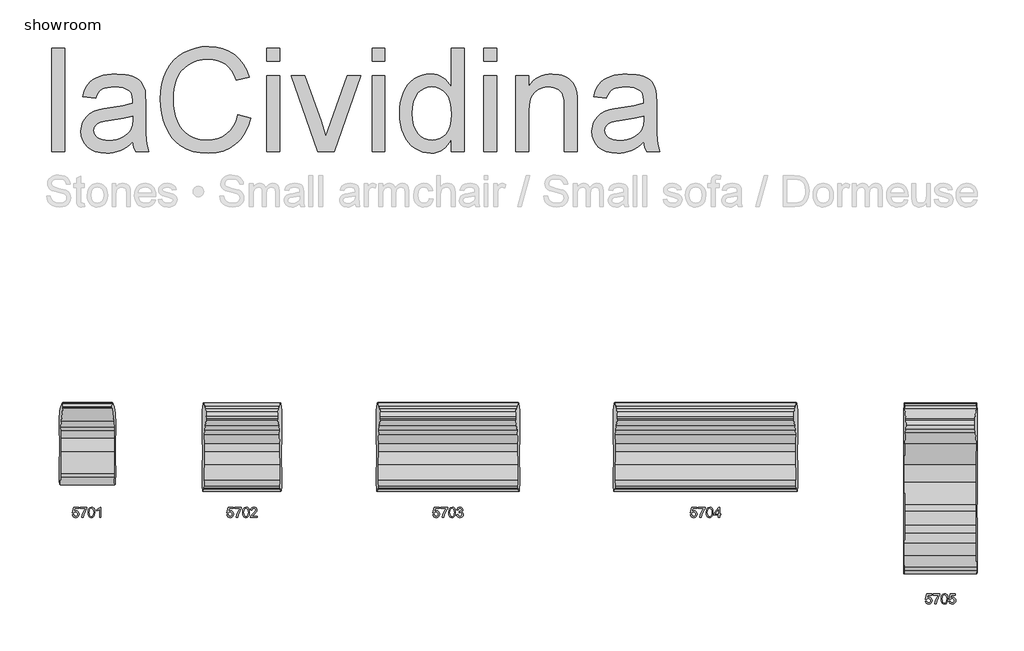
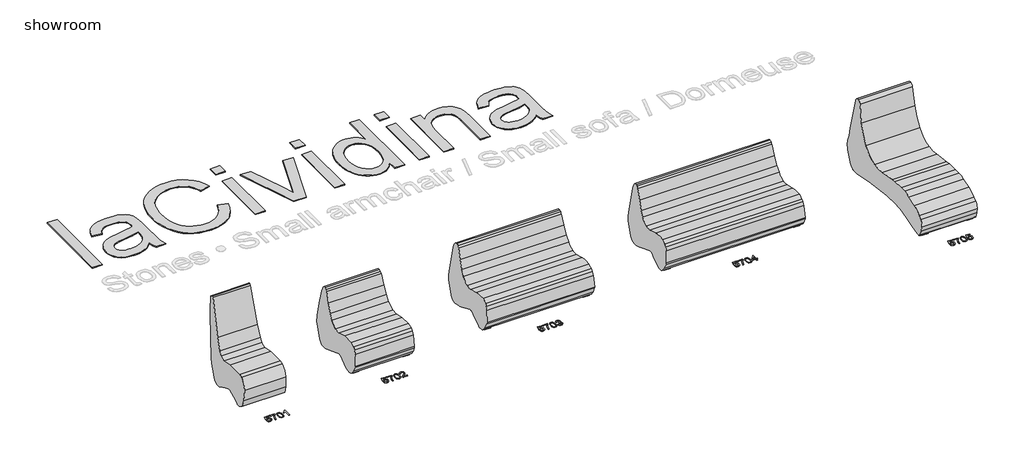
# One storey, part 1 of 2: 6 proxies, 5 furniture elements.
"""IFC4 building model written with IfcOpenShell, lengths in millimetres."""

from ifc_helpers import new_model, si_unit, origin, origin_with_axes, place, context, project, spatial, polyline, outline, extrude, transform, mapped, element, save
from components import stones_5701_stones_5701_19645829, stones_5702_stones_5702_3250bf2c, stones_5703_stones_5703_758f9897, stones_5704_stones_5704_b2d92260, stones_5705_stones_5705_17339cd3

model = new_model("IFC4")

# Units and contexts
model_context = context("Model", 3, world=origin())
ifc_project = project(units=[si_unit("LENGTHUNIT", "METRE", prefix="MILLI")], contexts=[model_context])

# Site, building, storey
site = spatial("IfcSite", under=ifc_project)
building = spatial("IfcBuilding", under=site)
storey = spatial("IfcBuildingStorey", under=building, Name="showroom", Elevation=0.0)

# Proxies
placement = place(None, origin())
element("IfcBuildingElementProxy", 1, Name="1000mm Arial", ObjectType="1000mm Arial", at=placement, inside=storey, context=model_context, shape_type="SweptSolid", body=[
    extrude(outline(polyline([(-1952.8965336, 4695.1020807), (-1952.8965336, 5699.6651822), (-1827.326146, 5699.6651822), (-1827.326146, 4695.1020807), (-1952.8965336, 4695.1020807)])), origin_with_axes(), (0.0, 0.0, 1.0), 10.0),
    extrude(outline(polyline([(-1168.0816106, 4789.2798714), (-1197.8570596, 4761.3361682), (-1228.0770326, 4737.8377058), (-1258.7415298, 4718.7844841), (-1289.850551, 4704.1765032), (-1321.7566499, 4693.3393128), (-1354.81238, 4685.5984625), (-1389.0177413, 4680.9539523), (-1424.3727339, 4679.4057822), (-1480.283133, 4683.1305874), (-1529.311073, 4694.305003), (-1571.4565541, 4712.929029), (-1606.7195762, 4739.0026654), (-1634.5636447, 4770.8704433), (-1654.4522651, 4806.8768935), (-1666.3854373, 4847.0220163), (-1670.3631613, 4891.3058114), (-1664.3544221, 4943.3611138), (-1656.843498, 4967.5953402), (-1646.3282043, 4990.6339501), (-1618.5224569, 5031.1009696), (-1583.1751285, 5062.7388212), (-1541.6351199, 5086.6511509), (-1495.2513316, 5103.9416046), (-1450.0631599, 5113.5678502), (-1386.6035157, 5122.8262137), (-1258.2126994, 5142.6918415), (-1208.6406006, 5153.9122423), (-1168.8173746, 5165.9910345), (-1168.0816106, 5193.9500661), (-1170.2429173, 5224.3923012), (-1176.7268375, 5249.9907567), (-1187.5333711, 5270.7454326), (-1202.6625181, 5286.6563289), (-1228.8127966, 5302.5365684), (-1260.665246, 5313.8795966), (-1298.2198664, 5320.6854135), (-1341.4766577, 5322.9540191), (-1381.6984225, 5321.4441701), (-1416.27933, 5316.914623), (-1445.2193803, 5309.3653779), (-1468.5185733, 5298.7964348), (-1487.6637655, 5284.3800591), (-1504.1418132, 5265.2885164), (-1517.9527164, 5241.5218066), (-1529.0964752, 5213.0799299), (-1654.6668629, 5228.7762283), (-1645.1095952, 5264.9512912), (-1632.8698547, 5297.4475341), (-1617.9476412, 5326.2649571), (-1600.3429549, 5351.4035601), (-1579.2970391, 5373.3691809), (-1554.0511372, 5392.6676572), (-1524.6052492, 5409.2989891), (-1490.959375, 5423.2631765), (-1453.7956293, 5434.3149647), (-1413.7961265, 5442.2090992), (-1370.9608667, 5446.9455799), (-1325.2898499, 5448.5244068), (-1240.4010795, 5442.9448632), (-1204.5555776, 5435.9704337), (-1173.1093312, 5426.2062324), (-1122.3722727, 5401.0369726), (-1102.8208775, 5386.3140286), (-1087.1475717, 5370.1655418), (-1063.787065, 5331.9977848), (-1048.6425895, 5284.9395463), (-1044.0440646, 5241.5294708), (-1042.5112229, 5175.065457), (-1042.5112229, 5018.8382364), (-1040.9170676, 4882.752555), (-1036.1346017, 4800.6842133), (-1026.6922971, 4746.7588442), (-1011.118626, 4695.1020807), (-1136.6890137, 4695.1020807), (-1156.7998961, 4738.7574108), (-1168.0816106, 4789.2798714)]), holes=[polyline([(-1168.0816106, 5040.4206468), (-1252.4492148, 5019.5126868), (-1370.6619626, 5001.9156646), (-1435.8077326, 4992.2894191), (-1478.6966419, 4981.5595276), (-1506.8089577, 4967.6413254), (-1527.6249472, 4948.450148), (-1540.500817, 4925.4575233), (-1544.7927737, 4900.1349793), (-1542.4551901, 4880.6219052), (-1535.4424396, 4862.7949568), (-1523.7545221, 4846.6541343), (-1507.3914375, 4832.1994375), (-1486.50647, 4820.2892579), (-1461.2529039, 4811.7819868), (-1431.6307391, 4806.6776241), (-1397.6399756, 4804.9761699), (-1362.9364407, 4806.8539009), (-1330.1949431, 4812.487094), (-1299.4154829, 4821.8757491), (-1270.5980599, 4835.0198662), (-1244.6010656, 4850.8311278), (-1222.2828912, 4868.2212162), (-1203.6435368, 4887.1901316), (-1188.6830023, 4907.7378739), (-1179.9917902, 4926.1319736), (-1173.7837815, 4948.450148), (-1168.8173746, 5004.8587206), (-1168.0816106, 5040.4206468)])]), origin_with_axes(), (0.0, 0.0, 1.0), 10.0),
    extrude(outline(polyline([(-147.8222106, 5052.1928707), (-22.2518229, 5019.8192551), (-47.099186, 4941.7286374), (-80.1932372, 4873.4941915), (-121.5339764, 4815.1159174), (-145.296854, 4789.6228448), (-171.1214037, 4766.5938151), (-227.8365446, 4728.4490507), (-290.5604248, 4701.2027904), (-359.2930442, 4684.8550343), (-434.0344029, 4679.4057822), (-510.6075073, 4683.5291262), (-579.6850161, 4695.8991583), (-641.2669293, 4716.5158785), (-695.3532468, 4745.3792867), (-742.6873968, 4782.0601873), (-784.0128076, 4826.1293846), (-819.3294792, 4877.5868787), (-848.6374114, 4936.4326695), (-871.6530288, 5000.1222399), (-888.0927554, 5066.1110728), (-897.9565914, 5134.3991682), (-901.2445368, 5204.986526), (-897.5273958, 5280.7242317), (-886.3759728, 5351.4648737), (-867.7902678, 5417.208452), (-841.7702809, 5477.9549664), (-808.8984918, 5532.7004058), (-769.7573803, 5580.4407589), (-724.3469465, 5621.1760257), (-672.6671904, 5654.9062061), (-616.4732157, 5681.3553887), (-557.5201259, 5700.247662), (-495.8079212, 5711.583026), (-431.3366016, 5715.3614806), (-359.5153062, 5710.4717158), (-293.6567649, 5695.8024212), (-233.7609776, 5671.353597), (-179.8279442, 5637.125243), (-132.746713, 5594.0217359), (-93.4063322, 5542.9474522), (-61.8068016, 5483.902392), (-37.9481214, 5416.8865552), (-163.5185091, 5386.9654863), (-183.2921663, 5436.3459799), (-207.0512119, 5478.5374462), (-234.7956457, 5513.5398852), (-266.5254677, 5541.3532969), (-302.4246191, 5562.5448327), (-342.6770407, 5577.6816439), (-387.2827327, 5586.7637307), (-436.2416949, 5589.7910929), (-492.5736254, 5586.4341697), (-544.0924331, 5576.3634001), (-590.7981181, 5559.5787841), (-632.6906803, 5536.0803216), (-669.2412893, 5506.9256735), (-699.9211149, 5473.1725005), (-724.7301569, 5434.8208025), (-743.6684155, 5391.8705795), (-757.6709239, 5346.2685406), (-767.6727157, 5299.9613944), (-773.6737907, 5252.9491411), (-775.6741491, 5205.2317807), (-773.3059087, 5145.2670154), (-766.2011877, 5089.2263248), (-754.359986, 5037.1097089), (-737.7823036, 4988.9171675), (-716.1998932, 4945.6067268), (-689.3445075, 4908.1364127), (-657.2161466, 4876.5062253), (-619.8148104, 4850.7161646), (-578.9569164, 4830.7049169), (-536.4588817, 4816.4111686), (-492.3207065, 4807.8349196), (-446.5423907, 4804.9761699), (-391.9502355, 4808.8695877), (-341.7266789, 4820.549841), (-295.8717211, 4840.0169299), (-254.3853619, 4867.2708544), (-218.2486201, 4902.1889871), (-188.4425143, 4944.6487007), (-164.9670445, 4994.6499952), (-147.8222106, 5052.1928707)])), origin_with_axes(), (0.0, 0.0, 1.0), 10.0),
    extrude(outline(polyline([(134.7111617, 4695.1020807), (134.7111617, 5432.8281083), (260.2815493, 5432.8281083), (260.2815493, 4695.1020807), (134.7111617, 4695.1020807)])), origin_with_axes(), (0.0, 0.0, 1.0), 10.0),
    extrude(outline(polyline([(134.7111617, 5574.0947945), (134.7111617, 5699.6651822), (260.2815493, 5699.6651822), (260.2815493, 5574.0947945), (134.7111617, 5574.0947945)])), origin_with_axes(), (0.0, 0.0, 1.0), 10.0),
    extrude(outline(polyline([(629.6350725, 4695.1020807), (370.1556386, 5432.8281083), (503.0836662, 5432.8281083), (660.2919054, 4990.8792048), (707.6260555, 4842.2548787), (753.9791869, 4982.5405462), (912.1684448, 5432.8281083), (1045.0964724, 5432.8281083), (788.8053491, 4695.1020807), (629.6350725, 4695.1020807)])), origin_with_axes(), (0.0, 0.0, 1.0), 10.0),
    extrude(outline(polyline([(1154.9705616, 4695.1020807), (1154.9705616, 5432.8281083), (1280.5409493, 5432.8281083), (1280.5409493, 4695.1020807), (1154.9705616, 4695.1020807)])), origin_with_axes(), (0.0, 0.0, 1.0), 10.0),
    extrude(outline(polyline([(1154.9705616, 5574.0947945), (1154.9705616, 5699.6651822), (1280.5409493, 5699.6651822), (1280.5409493, 5574.0947945), (1154.9705616, 5574.0947945)])), origin_with_axes(), (0.0, 0.0, 1.0), 10.0),
    extrude(outline(polyline([(1924.0891862, 4695.1020807), (1924.0891862, 4813.5600831), (1906.2967268, 4782.1176688), (1886.5192374, 4754.8675765), (1864.7567182, 4731.809806), (1841.009169, 4712.9443574), (1815.2765898, 4698.2712308), (1787.5589807, 4687.790426), (1757.8563417, 4681.5019432), (1726.1686728, 4679.4057822), (1684.7206347, 4682.4408087), (1644.9893792, 4691.5458881), (1606.9749064, 4706.7210204), (1570.6772162, 4727.9662056), (1537.2306114, 4754.6453144), (1507.769395, 4786.1222176), (1482.2935668, 4822.3969152), (1460.8031269, 4863.4694071), (1443.7425994, 4908.5579442), (1431.5565083, 4956.8807771), (1424.2448537, 5008.4379059), (1421.8076355, 5063.2293305), (1424.0532485, 5117.0167439), (1430.7900875, 5168.2596401), (1442.0181526, 5216.9580192), (1457.7374436, 5263.1118812), (1477.9402965, 5305.3723254), (1502.6190471, 5342.3904512), (1531.7736952, 5374.1662585), (1565.4042409, 5400.6997474), (1602.322732, 5421.6230359), (1641.3412161, 5436.568242), (1682.4596932, 5445.5353656), (1725.6781635, 5448.5244068), (1757.2853582, 5446.3860927), (1787.1144567, 5439.9711504), (1815.1654588, 5429.2795799), (1841.4383646, 5414.3113812), (1865.6419342, 5395.9249457), (1887.4849277, 5374.9786646), (1906.967345, 5351.4725379), (1924.0891862, 5325.4065657), (1924.0891862, 5699.6651822), (2049.6595739, 5699.6651822), (2049.6595739, 4695.1020807), (1924.0891862, 4695.1020807)]), holes=[polyline([(1547.3780231, 5063.7198398), (1550.9188873, 5002.8277054), (1561.54148, 4950.1362738), (1579.245801, 4905.645545), (1604.0318504, 4869.3555191), (1633.6310226, 4841.1895538), (1665.7747119, 4821.0710072), (1700.4629184, 4808.9998792), (1737.695642, 4804.9761699), (1775.1046424, 4808.8159382), (1809.5859152, 4820.3352432), (1841.1394605, 4839.5340848), (1869.7652782, 4866.4124631), (1893.531988, 4901.1849758), (1910.5082092, 4944.0662209), (1920.693942, 4995.0561983), (1924.0891862, 5054.154908), (1920.6326283, 5118.9481244), (1910.2629545, 5174.5136341), (1892.980165, 5220.851437), (1868.7842596, 5257.9615333), (1839.5299768, 5286.3957458), (1807.0720549, 5306.7058977), (1771.410494, 5318.8919887), (1732.545294, 5322.9540191), (1694.5768065, 5319.0529371), (1659.8886, 5307.3496911), (1628.4806747, 5287.8442812), (1600.3530304, 5260.5367073), (1577.1764647, 5224.8291611), (1560.621775, 5180.1238345), (1550.6889611, 5126.4207274), (1547.3780231, 5063.7198398)])]), origin_with_axes(), (0.0, 0.0, 1.0), 10.0),
    extrude(outline(polyline([(2238.0151554, 4695.1020807), (2238.0151554, 5432.8281083), (2363.5855431, 5432.8281083), (2363.5855431, 4695.1020807), (2238.0151554, 4695.1020807)])), origin_with_axes(), (0.0, 0.0, 1.0), 10.0),
    extrude(outline(polyline([(2238.0151554, 5574.0947945), (2238.0151554, 5699.6651822), (2363.5855431, 5699.6651822), (2363.5855431, 5574.0947945), (2238.0151554, 5574.0947945)])), origin_with_axes(), (0.0, 0.0, 1.0), 10.0),
    extrude(outline(polyline([(2551.9411246, 4695.1020807), (2551.9411246, 5432.8281083), (2677.5115123, 5432.8281083), (2677.5115123, 5329.8211497), (2698.2278672, 5357.6422256), (2721.1361856, 5381.7538247), (2746.2364675, 5402.155947), (2773.5287131, 5418.8485925), (2803.0129221, 5431.8317613), (2834.6890948, 5441.1054532), (2868.5572309, 5446.6696684), (2904.6173307, 5448.5244068), (2966.5134764, 5442.5463244), (2995.5071761, 5435.0737213), (3023.1979605, 5424.6120771), (3048.5358329, 5411.7208789), (3070.4707968, 5396.9596138), (3089.0028523, 5380.3282819), (3104.1319994, 5361.8268833), (3126.9713399, 5319.305856), (3141.7785902, 5269.4885025), (3146.7449972, 5221.8477841), (3148.4004661, 5148.0874441), (3148.4004661, 4695.1020807), (3022.8300785, 4695.1020807), (3022.8300785, 5131.1648723), (3019.2125722, 5196.0960444), (3008.3600533, 5242.2652348), (2999.7378191, 5259.7319654), (2988.3411414, 5275.3439576), (2974.1700204, 5289.1012113), (2957.224456, 5301.0037267), (2917.3399163, 5317.466446), (2871.0174418, 5322.9540191), (2832.8880058, 5319.8730074), (2797.4716996, 5310.6299723), (2764.7685231, 5295.2249137), (2734.7784762, 5273.6578318), (2709.7241795, 5243.4761797), (2691.8282533, 5202.227411), (2681.0906976, 5149.9115256), (2677.5115123, 5086.5285235), (2677.5115123, 4695.1020807), (2551.9411246, 4695.1020807)])), origin_with_axes(), (0.0, 0.0, 1.0), 10.0),
    extrude(outline(polyline([(3791.948703, 4789.2798714), (3762.1732541, 4761.3361682), (3731.953281, 4737.8377058), (3701.2887839, 4718.7844841), (3670.1797626, 4704.1765032), (3638.2736638, 4693.3393128), (3605.2179337, 4685.5984625), (3571.0125723, 4680.9539523), (3535.6575797, 4679.4057822), (3479.7471807, 4683.1305874), (3430.7192406, 4694.305003), (3388.5737595, 4712.929029), (3353.3107375, 4739.0026654), (3325.466669, 4770.8704433), (3305.5780486, 4806.8768935), (3293.6448764, 4847.0220163), (3289.6671523, 4891.3058114), (3295.6758915, 4943.3611138), (3303.1868156, 4967.5953402), (3313.7021093, 4990.6339501), (3341.5078568, 5031.1009696), (3376.8551852, 5062.7388212), (3418.3951938, 5086.6511509), (3464.778982, 5103.9416046), (3509.9671537, 5113.5678502), (3573.4267979, 5122.8262137), (3701.8176142, 5142.6918415), (3751.3897131, 5153.9122423), (3791.2129391, 5165.9910345), (3791.948703, 5193.9500661), (3789.7873963, 5224.3923012), (3783.3034762, 5249.9907567), (3772.4969425, 5270.7454326), (3757.3677955, 5286.6563289), (3731.217517, 5302.5365684), (3699.3650676, 5313.8795966), (3661.8104472, 5320.6854135), (3618.553656, 5322.9540191), (3578.3318912, 5321.4441701), (3543.7509836, 5316.914623), (3514.8109333, 5309.3653779), (3491.5117403, 5298.7964348), (3472.3665481, 5284.3800591), (3455.8885004, 5265.2885164), (3442.0775972, 5241.5218066), (3430.9338384, 5213.0799299), (3305.3634508, 5228.7762283), (3314.9207184, 5264.9512912), (3327.160459, 5297.4475341), (3342.0826724, 5326.2649571), (3359.6873587, 5351.4035601), (3380.7332745, 5373.3691809), (3405.9791764, 5392.6676572), (3435.4250645, 5409.2989891), (3469.0709386, 5423.2631765), (3506.2346843, 5434.3149647), (3546.2341871, 5442.2090992), (3589.0694469, 5446.9455799), (3634.7404638, 5448.5244068), (3719.6292342, 5442.9448632), (3755.4747361, 5435.9704337), (3786.9209824, 5426.2062324), (3837.6580409, 5401.0369726), (3857.2094361, 5386.3140286), (3872.882742, 5370.1655418), (3896.2432487, 5331.9977848), (3911.3877241, 5284.9395463), (3915.9862491, 5241.5294708), (3917.5190907, 5175.065457), (3917.5190907, 5018.8382364), (3919.113246, 4882.752555), (3923.895712, 4800.6842133), (3933.3380165, 4746.7588442), (3948.9116877, 4695.1020807), (3823.3413, 4695.1020807), (3803.2304176, 4738.7574108), (3791.948703, 4789.2798714)]), holes=[polyline([(3791.948703, 5040.4206468), (3707.5810988, 5019.5126868), (3589.368351, 5001.9156646), (3524.2225811, 4992.2894191), (3481.3336718, 4981.5595276), (3453.221356, 4967.6413254), (3432.4053664, 4948.450148), (3419.5294966, 4925.4575233), (3415.23754, 4900.1349793), (3417.5751235, 4880.6219052), (3424.587874, 4862.7949568), (3436.2757916, 4846.6541343), (3452.6388762, 4832.1994375), (3473.5238436, 4820.2892579), (3498.7774097, 4811.7819868), (3528.3995745, 4806.6776241), (3562.3903381, 4804.9761699), (3597.0938729, 4806.8539009), (3629.8353705, 4812.487094), (3660.6148308, 4821.8757491), (3689.4322537, 4835.0198662), (3715.429248, 4850.8311278), (3737.7474224, 4868.2212162), (3756.3867768, 4887.1901316), (3771.3473113, 4907.7378739), (3780.0385234, 4926.1319736), (3786.2465321, 4948.450148), (3791.2129391, 5004.8587206), (3791.948703, 5040.4206468)])]), origin_with_axes(), (0.0, 0.0, 1.0), 10.0),
])
element("IfcBuildingElementProxy", 2, Name="100mm Arial", ObjectType="100mm Arial", at=placement, inside=storey, context=model_context, shape_type="SweptSolid", body=[
    extrude(outline(polyline([(-1755.1998563, 1166.7857881), (-1742.6428175, 1168.3554179), (-1736.3152472, 1155.4182344), (-1723.1941227, 1151.0894896), (-1714.1932765, 1152.5947401), (-1707.4487733, 1157.1104916), (-1703.2365244, 1164.1155779), (-1701.8324415, 1173.0888329), (-1707.093154, 1188.0003164), (-1713.6997015, 1192.1022007), (-1722.9979189, 1193.4694954), (-1734.0221161, 1191.2867289), (-1741.0731876, 1185.6213462), (-1753.6302264, 1187.1909761), (-1742.6428175, 1238.988761), (-1693.9842923, 1238.988761), (-1693.9842923, 1226.4317222), (-1732.4892744, 1226.4317222), (-1737.8603516, 1198.7669962), (-1728.8901622, 1204.2116497), (-1719.4907773, 1206.0265342), (-1707.7584073, 1203.7763227), (-1698.0187315, 1197.0256881), (-1691.4612349, 1186.7372549), (-1689.2754027, 1173.8736478), (-1691.2435714, 1161.3166091), (-1697.1480774, 1150.5744548), (-1708.4543174, 1141.5429518), (-1723.2431736, 1138.5324508), (-1735.5764175, 1140.466897), (-1745.4019325, 1146.2702355), (-1752.1372386, 1155.2680159), (-1755.1998563, 1166.7857881)])), origin_with_axes(), (0.0, 0.0, 1.0), 2.0),
    extrude(outline(polyline([(-1678.2879938, 1226.4317222), (-1678.2879938, 1238.988761), (-1612.3635403, 1238.988761), (-1612.3635403, 1228.8352179), (-1631.0642084, 1201.8204167), (-1645.374818, 1167.3989247), (-1650.0346566, 1140.1020807), (-1662.5916953, 1140.1020807), (-1657.6007629, 1168.4289943), (-1643.90329, 1200.4469906), (-1624.920579, 1226.4317222), (-1678.2879938, 1226.4317222)])), origin_with_axes(), (0.0, 0.0, 1.0), 2.0),
    extrude(outline(polyline([(-1601.3761313, 1189.5208954), (-1597.6850487, 1218.4241574), (-1586.7221652, 1235.0892118), (-1568.4139046, 1240.5583908), (-1553.7476757, 1237.3210293), (-1543.6186581, 1227.9890893), (-1537.7325462, 1213.1266567), (-1535.4516778, 1189.5208954), (-1539.1059723, 1160.7402606), (-1550.0320675, 1144.038418), (-1558.2634272, 1139.9089426), (-1568.4139046, 1138.5324508), (-1581.4614527, 1140.9236838), (-1591.3697411, 1148.0973827), (-1598.8745338, 1165.0873995), (-1601.3761313, 1189.5208954)]), holes=[polyline([(-1588.8190926, 1189.5454208), (-1587.3475646, 1169.7932234), (-1582.9329806, 1158.3612904), (-1576.3601557, 1152.9074398), (-1568.4139046, 1151.0894896), (-1560.4676535, 1152.9135712), (-1553.8948285, 1158.3858158), (-1549.4802446, 1169.8238802), (-1548.0087166, 1189.5454208), (-1549.4311936, 1208.8530942), (-1553.6986248, 1220.373932), (-1560.259187, 1226.094497), (-1568.5610574, 1228.0013521), (-1576.4214693, 1226.3213576), (-1582.7367769, 1221.2813743), (-1587.2985137, 1209.0431666), (-1588.8190926, 1189.5454208)])]), origin_with_axes(), (0.0, 0.0, 1.0), 2.0),
    extrude(outline(polyline([(-1477.3753735, 1140.1020807), (-1489.9324123, 1140.1020807), (-1489.9324123, 1218.3873692), (-1501.8272634, 1209.9138206), (-1515.0464898, 1203.5739876), (-1515.0464898, 1215.4443133), (-1496.6401273, 1227.1920117), (-1485.4687774, 1240.5583908), (-1477.3753735, 1240.5583908), (-1477.3753735, 1140.1020807)])), origin_with_axes(), (0.0, 0.0, 1.0), 2.0),
])
element("IfcBuildingElementProxy", 3, Name="100mm Arial", ObjectType="100mm Arial", at=placement, inside=storey, context=model_context, shape_type="SweptSolid", body=[
    extrude(outline(polyline([(-255.1998563, 1166.7857881), (-242.6428175, 1168.3554179), (-236.3152472, 1155.4182344), (-223.1941227, 1151.0894896), (-214.1932765, 1152.5947401), (-207.4487733, 1157.1104916), (-203.2365244, 1164.1155779), (-201.8324415, 1173.0888329), (-207.093154, 1188.0003164), (-213.6997015, 1192.1022007), (-222.9979189, 1193.4694954), (-234.0221161, 1191.2867289), (-241.0731876, 1185.6213462), (-253.6302264, 1187.1909761), (-242.6428175, 1238.988761), (-193.9842923, 1238.988761), (-193.9842923, 1226.4317222), (-232.4892744, 1226.4317222), (-237.8603516, 1198.7669962), (-228.8901622, 1204.2116497), (-219.4907773, 1206.0265342), (-207.7584073, 1203.7763227), (-198.0187315, 1197.0256881), (-191.4612349, 1186.7372549), (-189.2754027, 1173.8736478), (-191.2435714, 1161.3166091), (-197.1480774, 1150.5744548), (-208.4543174, 1141.5429518), (-223.2431736, 1138.5324508), (-235.5764175, 1140.466897), (-245.4019325, 1146.2702355), (-252.1372386, 1155.2680159), (-255.1998563, 1166.7857881)])), origin_with_axes(), (0.0, 0.0, 1.0), 2.0),
    extrude(outline(polyline([(-178.2879938, 1226.4317222), (-178.2879938, 1238.988761), (-112.3635403, 1238.988761), (-112.3635403, 1228.8352179), (-131.0642084, 1201.8204167), (-145.374818, 1167.3989247), (-150.0346566, 1140.1020807), (-162.5916953, 1140.1020807), (-157.6007629, 1168.4289943), (-143.90329, 1200.4469906), (-124.920579, 1226.4317222), (-178.2879938, 1226.4317222)])), origin_with_axes(), (0.0, 0.0, 1.0), 2.0),
    extrude(outline(polyline([(-101.3761313, 1189.5208954), (-97.6850487, 1218.4241574), (-86.7221652, 1235.0892118), (-68.4139046, 1240.5583908), (-53.7476757, 1237.3210293), (-43.6186581, 1227.9890893), (-37.7325462, 1213.1266567), (-35.4516778, 1189.5208954), (-39.1059723, 1160.7402606), (-50.0320675, 1144.038418), (-58.2634272, 1139.9089426), (-68.4139046, 1138.5324508), (-81.4614527, 1140.9236838), (-91.3697411, 1148.0973827), (-98.8745338, 1165.0873995), (-101.3761313, 1189.5208954)]), holes=[polyline([(-88.8190926, 1189.5454208), (-87.3475646, 1169.7932234), (-82.9329806, 1158.3612904), (-76.3601557, 1152.9074398), (-68.4139046, 1151.0894896), (-60.4676535, 1152.9135712), (-53.8948285, 1158.3858158), (-49.4802446, 1169.8238802), (-48.0087166, 1189.5454208), (-49.4311936, 1208.8530942), (-53.6986248, 1220.373932), (-60.259187, 1226.094497), (-68.5610574, 1228.0013521), (-76.4214693, 1226.3213576), (-82.7367769, 1221.2813743), (-87.2985137, 1209.0431666), (-88.8190926, 1189.5454208)])]), origin_with_axes(), (0.0, 0.0, 1.0), 2.0),
    extrude(outline(polyline([(39.8905548, 1152.6591194), (39.8905548, 1140.1020807), (-26.0338987, 1140.1020807), (-24.6849981, 1148.7595703), (-17.057578, 1162.0891613), (-1.3367541, 1176.6450255), (20.3437581, 1197.5652483), (25.7638862, 1211.7900188), (20.6503265, 1223.3047252), (7.29621, 1228.0013521), (-6.6219921, 1223.4150898), (-11.9072301, 1210.7354237), (-24.4642689, 1212.3050536), (-21.4200454, 1224.4512908), (-14.8380233, 1233.3233782), (-5.0615593, 1238.7496377), (7.5659902, 1240.5583908), (20.2855101, 1238.5473026), (30.0435801, 1232.5140379), (36.2515887, 1223.500929), (38.320925, 1212.5503083), (36.0891075, 1200.6431943), (28.670154, 1188.3314102), (10.6807244, 1171.1267956), (-3.7647753, 1159.0480034), (-9.430158, 1152.6591194), (39.8905548, 1152.6591194)])), origin_with_axes(), (0.0, 0.0, 1.0), 2.0),
])
element("IfcBuildingElementProxy", 4, Name="100mm Arial", ObjectType="100mm Arial", at=placement, inside=storey, context=model_context, shape_type="SweptSolid", body=[
    extrude(outline(polyline([(1744.8001437, 1166.7857881), (1757.3571825, 1168.3554179), (1763.6847528, 1155.4182344), (1776.8058773, 1151.0894896), (1785.8067235, 1152.5947401), (1792.5512267, 1157.1104916), (1796.7634756, 1164.1155779), (1798.1675585, 1173.0888329), (1792.906846, 1188.0003164), (1786.3002985, 1192.1022007), (1777.0020811, 1193.4694954), (1765.9778839, 1191.2867289), (1758.9268124, 1185.6213462), (1746.3697736, 1187.1909761), (1757.3571825, 1238.988761), (1806.0157077, 1238.988761), (1806.0157077, 1226.4317222), (1767.5107256, 1226.4317222), (1762.1396484, 1198.7669962), (1771.1098378, 1204.2116497), (1780.5092227, 1206.0265342), (1792.2415927, 1203.7763227), (1801.9812685, 1197.0256881), (1808.5387651, 1186.7372549), (1810.7245973, 1173.8736478), (1808.7564286, 1161.3166091), (1802.8519226, 1150.5744548), (1791.5456826, 1141.5429518), (1776.7568264, 1138.5324508), (1764.4235825, 1140.466897), (1754.5980675, 1146.2702355), (1747.8627614, 1155.2680159), (1744.8001437, 1166.7857881)])), origin_with_axes(), (0.0, 0.0, 1.0), 2.0),
    extrude(outline(polyline([(1821.7120062, 1226.4317222), (1821.7120062, 1238.988761), (1887.6364597, 1238.988761), (1887.6364597, 1228.8352179), (1868.9357916, 1201.8204167), (1854.625182, 1167.3989247), (1849.9653434, 1140.1020807), (1837.4083047, 1140.1020807), (1842.3992371, 1168.4289943), (1856.09671, 1200.4469906), (1875.079421, 1226.4317222), (1821.7120062, 1226.4317222)])), origin_with_axes(), (0.0, 0.0, 1.0), 2.0),
    extrude(outline(polyline([(1898.6238687, 1189.5208954), (1902.3149513, 1218.4241574), (1913.2778348, 1235.0892118), (1931.5860954, 1240.5583908), (1946.2523243, 1237.3210293), (1956.3813419, 1227.9890893), (1962.2674538, 1213.1266567), (1964.5483222, 1189.5208954), (1960.8940277, 1160.7402606), (1949.9679325, 1144.038418), (1941.7365728, 1139.9089426), (1931.5860954, 1138.5324508), (1918.5385473, 1140.9236838), (1908.6302589, 1148.0973827), (1901.1254662, 1165.0873995), (1898.6238687, 1189.5208954)]), holes=[polyline([(1911.1809074, 1189.5454208), (1912.6524354, 1169.7932234), (1917.0670194, 1158.3612904), (1923.6398443, 1152.9074398), (1931.5860954, 1151.0894896), (1939.5323465, 1152.9135712), (1946.1051715, 1158.3858158), (1950.5197554, 1169.8238802), (1951.9912834, 1189.5454208), (1950.5688064, 1208.8530942), (1946.3013752, 1220.373932), (1939.740813, 1226.094497), (1931.4389426, 1228.0013521), (1923.5785307, 1226.3213576), (1917.2632231, 1221.2813743), (1912.7014863, 1209.0431666), (1911.1809074, 1189.5454208)])]), origin_with_axes(), (0.0, 0.0, 1.0), 2.0),
    extrude(outline(polyline([(1975.5357311, 1166.7857881), (1988.0927699, 1168.3554179), (1995.0212141, 1155.1361915), (2007.9829231, 1151.0894896), (2016.5913618, 1152.4813098), (2023.2377632, 1156.6567705), (2028.9031459, 1170.4400825), (2023.2868141, 1183.426317), (2009.0129927, 1188.5644022), (2000.2083503, 1187.1909761), (2001.6063018, 1199.7480148), (2003.6173901, 1199.600862), (2017.866686, 1203.2061056), (2022.6123638, 1207.7801051), (2024.1942563, 1214.2916164), (2019.6079941, 1224.1140656), (2007.7867194, 1228.0013521), (1995.8182918, 1224.0772774), (1989.6623997, 1212.3050536), (1977.105361, 1213.8746834), (1980.802575, 1225.1502666), (1987.3815314, 1233.5686329), (1996.3823775, 1238.8109513), (2007.345261, 1240.5583908), (2022.4897364, 1237.1125628), (2033.0847379, 1227.6947837), (2036.7512951, 1215.0273804), (2033.2686789, 1203.4513602), (2022.967983, 1195.1372272), (2036.6531933, 1186.5533139), (2041.4601847, 1170.2193533), (2039.056689, 1157.9811456), (2031.8462018, 1147.7540262), (2020.9630262, 1140.8378447), (2007.5414647, 1138.5324508), (1995.4013589, 1140.5006195), (1985.5175959, 1146.4051255), (1978.644334, 1155.4366285), (1975.5357311, 1166.7857881)])), origin_with_axes(), (0.0, 0.0, 1.0), 2.0),
])
element("IfcBuildingElementProxy", 5, Name="100mm Arial", ObjectType="100mm Arial", at=placement, inside=storey, context=model_context, shape_type="SweptSolid", body=[
    extrude(outline(polyline([(4244.8001437, 1166.7857881), (4257.3571825, 1168.3554179), (4263.6847528, 1155.4182344), (4276.8058773, 1151.0894896), (4285.8067235, 1152.5947401), (4292.5512267, 1157.1104916), (4296.7634756, 1164.1155779), (4298.1675585, 1173.0888329), (4292.906846, 1188.0003164), (4286.3002985, 1192.1022007), (4277.0020811, 1193.4694954), (4265.9778839, 1191.2867289), (4258.9268124, 1185.6213462), (4246.3697736, 1187.1909761), (4257.3571825, 1238.988761), (4306.0157077, 1238.988761), (4306.0157077, 1226.4317222), (4267.5107256, 1226.4317222), (4262.1396484, 1198.7669962), (4271.1098378, 1204.2116497), (4280.5092227, 1206.0265342), (4292.2415927, 1203.7763227), (4301.9812685, 1197.0256881), (4308.5387651, 1186.7372549), (4310.7245973, 1173.8736478), (4308.7564286, 1161.3166091), (4302.8519226, 1150.5744548), (4291.5456826, 1141.5429518), (4276.7568264, 1138.5324508), (4264.4235825, 1140.466897), (4254.5980675, 1146.2702355), (4247.8627614, 1155.2680159), (4244.8001437, 1166.7857881)])), origin_with_axes(), (0.0, 0.0, 1.0), 2.0),
    extrude(outline(polyline([(4321.7120062, 1226.4317222), (4321.7120062, 1238.988761), (4387.6364597, 1238.988761), (4387.6364597, 1228.8352179), (4368.9357916, 1201.8204167), (4354.625182, 1167.3989247), (4349.9653434, 1140.1020807), (4337.4083047, 1140.1020807), (4342.3992371, 1168.4289943), (4356.09671, 1200.4469906), (4375.079421, 1226.4317222), (4321.7120062, 1226.4317222)])), origin_with_axes(), (0.0, 0.0, 1.0), 2.0),
    extrude(outline(polyline([(4398.6238687, 1189.5208954), (4402.3149513, 1218.4241574), (4413.2778348, 1235.0892118), (4431.5860954, 1240.5583908), (4446.2523243, 1237.3210293), (4456.3813419, 1227.9890893), (4462.2674538, 1213.1266567), (4464.5483222, 1189.5208954), (4460.8940277, 1160.7402606), (4449.9679325, 1144.038418), (4441.7365728, 1139.9089426), (4431.5860954, 1138.5324508), (4418.5385473, 1140.9236838), (4408.6302589, 1148.0973827), (4401.1254662, 1165.0873995), (4398.6238687, 1189.5208954)]), holes=[polyline([(4411.1809074, 1189.5454208), (4412.6524354, 1169.7932234), (4417.0670194, 1158.3612904), (4423.6398443, 1152.9074398), (4431.5860954, 1151.0894896), (4439.5323465, 1152.9135712), (4446.1051715, 1158.3858158), (4450.5197554, 1169.8238802), (4451.9912834, 1189.5454208), (4450.5688064, 1208.8530942), (4446.3013752, 1220.373932), (4439.740813, 1226.094497), (4431.4389426, 1228.0013521), (4423.5785307, 1226.3213576), (4417.2632231, 1221.2813743), (4412.7014863, 1209.0431666), (4411.1809074, 1189.5454208)])]), origin_with_axes(), (0.0, 0.0, 1.0), 2.0),
    extrude(outline(polyline([(4516.3461071, 1140.1020807), (4516.3461071, 1163.6465284), (4470.8268416, 1163.6465284), (4470.8268416, 1176.2035671), (4519.4853668, 1238.988761), (4528.9031459, 1238.988761), (4528.9031459, 1176.2035671), (4541.4601847, 1176.2035671), (4541.4601847, 1163.6465284), (4528.9031459, 1163.6465284), (4528.9031459, 1140.1020807), (4516.3461071, 1140.1020807)]), holes=[polyline([(4516.3461071, 1176.2035671), (4516.3461071, 1215.0028549), (4486.2778854, 1176.2035671), (4516.3461071, 1176.2035671)])]), origin_with_axes(), (0.0, 0.0, 1.0), 2.0),
])
element("IfcBuildingElementProxy", 6, Name="100mm Arial", ObjectType="100mm Arial", at=placement, inside=storey, context=model_context, shape_type="SweptSolid", body=[
    extrude(outline(polyline([(6524.8001437, 326.7857881), (6537.3571825, 328.3554179), (6543.6847528, 315.4182344), (6556.8058773, 311.0894896), (6565.8067235, 312.5947401), (6572.5512267, 317.1104916), (6576.7634756, 324.1155779), (6578.1675585, 333.0888329), (6572.906846, 348.0003164), (6566.3002985, 352.1022007), (6557.0020811, 353.4694954), (6545.9778839, 351.2867289), (6538.9268124, 345.6213462), (6526.3697736, 347.1909761), (6537.3571825, 398.988761), (6586.0157077, 398.988761), (6586.0157077, 386.4317222), (6547.5107256, 386.4317222), (6542.1396484, 358.7669962), (6551.1098378, 364.2116497), (6560.5092227, 366.0265342), (6572.2415927, 363.7763227), (6581.9812685, 357.0256881), (6588.5387651, 346.7372549), (6590.7245973, 333.8736478), (6588.7564286, 321.3166091), (6582.8519226, 310.5744548), (6571.5456826, 301.5429518), (6556.7568264, 298.5324508), (6544.4235825, 300.466897), (6534.5980675, 306.2702355), (6527.8627614, 315.2680159), (6524.8001437, 326.7857881)])), origin_with_axes(), (0.0, 0.0, 1.0), 2.0),
    extrude(outline(polyline([(6601.7120062, 386.4317222), (6601.7120062, 398.988761), (6667.6364597, 398.988761), (6667.6364597, 388.8352179), (6648.9357916, 361.8204167), (6634.625182, 327.3989247), (6629.9653434, 300.1020807), (6617.4083047, 300.1020807), (6622.3992371, 328.4289943), (6636.09671, 360.4469906), (6655.079421, 386.4317222), (6601.7120062, 386.4317222)])), origin_with_axes(), (0.0, 0.0, 1.0), 2.0),
    extrude(outline(polyline([(6678.6238687, 349.5208954), (6682.3149513, 378.4241574), (6693.2778348, 395.0892118), (6711.5860954, 400.5583908), (6726.2523243, 397.3210293), (6736.3813419, 387.9890893), (6742.2674538, 373.1266567), (6744.5483222, 349.5208954), (6740.8940277, 320.7402606), (6729.9679325, 304.038418), (6721.7365728, 299.9089426), (6711.5860954, 298.5324508), (6698.5385473, 300.9236838), (6688.6302589, 308.0973827), (6681.1254662, 325.0873995), (6678.6238687, 349.5208954)]), holes=[polyline([(6691.1809074, 349.5454208), (6692.6524354, 329.7932234), (6697.0670194, 318.3612904), (6703.6398443, 312.9074398), (6711.5860954, 311.0894896), (6719.5323465, 312.9135712), (6726.1051715, 318.3858158), (6730.5197554, 329.8238802), (6731.9912834, 349.5454208), (6730.5688064, 368.8530942), (6726.3013752, 380.373932), (6719.740813, 386.094497), (6711.4389426, 388.0013521), (6703.5785307, 386.3213576), (6697.2632231, 381.2813743), (6692.7014863, 369.0431666), (6691.1809074, 349.5454208)])]), origin_with_axes(), (0.0, 0.0, 1.0), 2.0),
    extrude(outline(polyline([(6755.5357311, 326.7857881), (6768.0927699, 328.3554179), (6774.4203402, 315.4182344), (6787.5414647, 311.0894896), (6796.5423108, 312.5947401), (6803.2868141, 317.1104916), (6807.4990629, 324.1155779), (6808.9031459, 333.0888329), (6803.6424334, 348.0003164), (6797.0358859, 352.1022007), (6787.7376684, 353.4694954), (6776.7134713, 351.2867289), (6769.6623997, 345.6213462), (6757.105361, 347.1909761), (6768.0927699, 398.988761), (6816.7512951, 398.988761), (6816.7512951, 386.4317222), (6778.246313, 386.4317222), (6772.8752358, 358.7669962), (6781.8454251, 364.2116497), (6791.2448101, 366.0265342), (6802.9771801, 363.7763227), (6812.7168559, 357.0256881), (6819.2743525, 346.7372549), (6821.4601847, 333.8736478), (6819.492016, 321.3166091), (6813.58751, 310.5744548), (6802.28127, 301.5429518), (6787.4924138, 298.5324508), (6775.1591699, 300.466897), (6765.3336549, 306.2702355), (6758.5983487, 315.2680159), (6755.5357311, 326.7857881)])), origin_with_axes(), (0.0, 0.0, 1.0), 2.0),
])

# Furniture
stones_5701_stones_5701_shape = stones_5701_stones_5701_19645829(model_context)
element("IfcFurniture", 7, ObjectType="Stones_5701 : Stones_5701", at=placement, inside=storey, context=model_context, shape_type="MappedRepresentation", body=[
    mapped(stones_5701_stones_5701_shape, transform((-1607.6546507, 2255.1020807, 0.0), x_axis=(1.0, 0.0, 0.0), y_axis=(0.0, 1.0, 0.0), z_axis=(0.0, 0.0, 1.0))),
])
stones_5702_stones_5702_shape = stones_5702_stones_5702_3250bf2c(model_context)
element("IfcFurniture", 8, ObjectType="Stones_5702 : Stones_5702", at=placement, inside=storey, context=model_context, shape_type="MappedRepresentation", body=[
    mapped(stones_5702_stones_5702_shape, transform((-107.6546507, 2255.1020807, 0.0), x_axis=(1.0, 0.0, 0.0), y_axis=(0.0, 1.0, 0.0), z_axis=(0.0, 0.0, 1.0))),
])
stones_5703_stones_5703_shape = stones_5703_stones_5703_758f9897(model_context)
element("IfcFurniture", 9, ObjectType="Stones_5703 : Stones_5703", at=placement, inside=storey, context=model_context, shape_type="MappedRepresentation", body=[
    mapped(stones_5703_stones_5703_shape, transform((1892.3453493, 2255.1020807, 0.0), x_axis=(1.0, 0.0, 0.0), y_axis=(0.0, 1.0, 0.0), z_axis=(0.0, 0.0, 1.0))),
])
stones_5704_stones_5704_shape = stones_5704_stones_5704_b2d92260(model_context)
element("IfcFurniture", 10, ObjectType="Stones_5704 : Stones_5704", at=placement, inside=storey, context=model_context, shape_type="MappedRepresentation", body=[
    mapped(stones_5704_stones_5704_shape, transform((4392.3453493, 2255.1020807, 0.0), x_axis=(1.0, 0.0, 0.0), y_axis=(0.0, 1.0, 0.0), z_axis=(0.0, 0.0, 1.0))),
])
stones_5705_stones_5705_shape = stones_5705_stones_5705_17339cd3(model_context)
element("IfcFurniture", 11, ObjectType="Stones_5705 : Stones_5705", at=placement, inside=storey, context=model_context, shape_type="MappedRepresentation", body=[
    mapped(stones_5705_stones_5705_shape, transform((6672.3453493, 2255.1020807, 0.0), x_axis=(1.0, 0.0, 0.0), y_axis=(0.0, 1.0, 0.0), z_axis=(0.0, 0.0, 1.0))),
])

save(model, "model.ifc")
